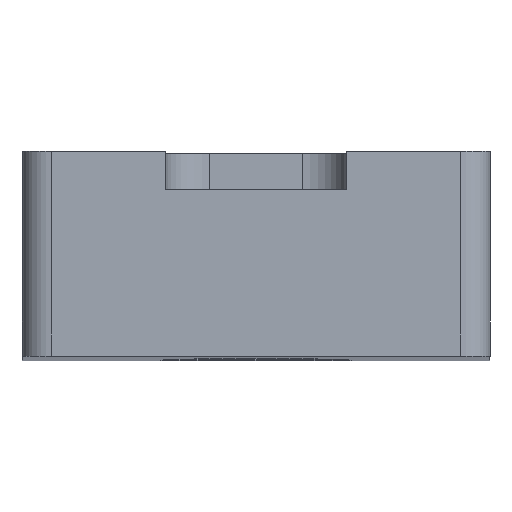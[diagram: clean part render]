
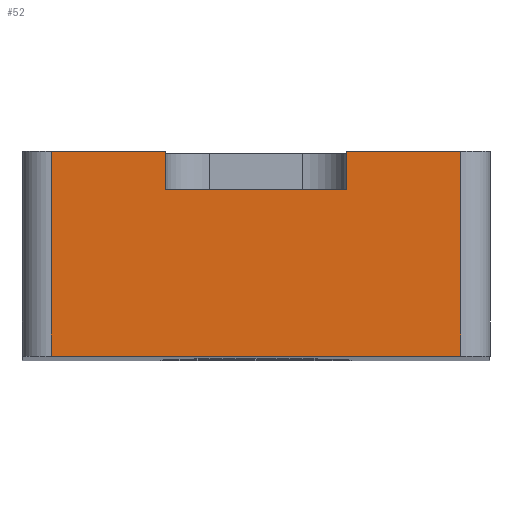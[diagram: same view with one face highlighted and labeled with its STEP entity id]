
A CAD part, top view. The second image highlights one B-rep face of the part: STEP entity #52.
In plain terms, the highlighted planar face has unit normal (0, 0, 1).
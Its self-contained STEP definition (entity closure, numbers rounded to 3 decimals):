
#39 = VECTOR ( 'NONE', #885, 1000. ) ;
#43 = ORIENTED_EDGE ( 'NONE', *, *, #573, .T. ) ;
#45 = EDGE_CURVE ( 'NONE', #270, #396, #795, .T. ) ;
#49 = CARTESIAN_POINT ( 'NONE',  ( 7., 7., 45. ) ) ;
#52 = ADVANCED_FACE ( 'NONE', ( #388 ), #683, .F. ) ;
#61 = VERTEX_POINT ( 'NONE', #770 ) ;
#92 = CARTESIAN_POINT ( 'NONE',  ( -8., 7., 45. ) ) ;
#142 = LINE ( 'NONE', #736, #773 ) ;
#145 = ORIENTED_EDGE ( 'NONE', *, *, #45, .F. ) ;
#160 = CARTESIAN_POINT ( 'NONE',  ( 3.1, 7., 45. ) ) ;
#178 = VERTEX_POINT ( 'NONE', #376 ) ;
#194 = EDGE_CURVE ( 'NONE', #816, #396, #537, .T. ) ;
#201 = EDGE_LOOP ( 'NONE', ( #145, #371, #727, #565, #858, #43, #230, #716 ) ) ;
#230 = ORIENTED_EDGE ( 'NONE', *, *, #715, .T. ) ;
#260 = VECTOR ( 'NONE', #584, 1000. ) ;
#270 = VERTEX_POINT ( 'NONE', #845 ) ;
#281 = VECTOR ( 'NONE', #677, 1000. ) ;
#326 = LINE ( 'NONE', #160, #910 ) ;
#336 = DIRECTION ( 'NONE',  ( -1., 0., 0. ) ) ;
#371 = ORIENTED_EDGE ( 'NONE', *, *, #633, .T. ) ;
#376 = CARTESIAN_POINT ( 'NONE',  ( -7., 7., 45. ) ) ;
#380 = EDGE_CURVE ( 'NONE', #540, #61, #700, .T. ) ;
#384 = CARTESIAN_POINT ( 'NONE',  ( -8., 0., 45. ) ) ;
#385 = VECTOR ( 'NONE', #336, 1000. ) ;
#388 = FACE_OUTER_BOUND ( 'NONE', #201, .T. ) ;
#396 = VERTEX_POINT ( 'NONE', #408 ) ;
#400 = VERTEX_POINT ( 'NONE', #685 ) ;
#408 = CARTESIAN_POINT ( 'NONE',  ( 7., 7., 45. ) ) ;
#420 = DIRECTION ( 'NONE',  ( 0., -1., 0. ) ) ;
#474 = CARTESIAN_POINT ( 'NONE',  ( 7., 0., 45. ) ) ;
#536 = DIRECTION ( 'NONE',  ( 1., 0., 0. ) ) ;
#537 = LINE ( 'NONE', #49, #281 ) ;
#540 = VERTEX_POINT ( 'NONE', #967 ) ;
#562 = EDGE_CURVE ( 'NONE', #400, #540, #635, .T. ) ;
#565 = ORIENTED_EDGE ( 'NONE', *, *, #380, .T. ) ;
#573 = EDGE_CURVE ( 'NONE', #178, #768, #142, .T. ) ;
#584 = DIRECTION ( 'NONE',  ( 1., 0., 0. ) ) ;
#614 = VECTOR ( 'NONE', #536, 1000. ) ;
#633 = EDGE_CURVE ( 'NONE', #270, #400, #326, .T. ) ;
#635 = LINE ( 'NONE', #738, #385 ) ;
#651 = CARTESIAN_POINT ( 'NONE',  ( -7., 0., 45. ) ) ;
#663 = DIRECTION ( 'NONE',  ( 1., 0., 0. ) ) ;
#677 = DIRECTION ( 'NONE',  ( 0., 1., 0. ) ) ;
#683 = PLANE ( 'NONE',  #688 ) ;
#685 = CARTESIAN_POINT ( 'NONE',  ( 3.1, 5.7, 45. ) ) ;
#688 = AXIS2_PLACEMENT_3D ( 'NONE', #734, #820, #972 ) ;
#700 = LINE ( 'NONE', #749, #39 ) ;
#705 = EDGE_CURVE ( 'NONE', #178, #61, #730, .T. ) ;
#708 = LINE ( 'NONE', #384, #260 ) ;
#715 = EDGE_CURVE ( 'NONE', #768, #816, #708, .T. ) ;
#716 = ORIENTED_EDGE ( 'NONE', *, *, #194, .T. ) ;
#727 = ORIENTED_EDGE ( 'NONE', *, *, #562, .T. ) ;
#730 = LINE ( 'NONE', #92, #891 ) ;
#734 = CARTESIAN_POINT ( 'NONE',  ( -8., 7., 45. ) ) ;
#736 = CARTESIAN_POINT ( 'NONE',  ( -7., 7., 45. ) ) ;
#738 = CARTESIAN_POINT ( 'NONE',  ( -8., 5.7, 45. ) ) ;
#749 = CARTESIAN_POINT ( 'NONE',  ( -3.1, 7., 45. ) ) ;
#768 = VERTEX_POINT ( 'NONE', #651 ) ;
#770 = CARTESIAN_POINT ( 'NONE',  ( -3.1, 7., 45. ) ) ;
#773 = VECTOR ( 'NONE', #789, 1000. ) ;
#781 = CARTESIAN_POINT ( 'NONE',  ( -8., 7., 45. ) ) ;
#789 = DIRECTION ( 'NONE',  ( 0., -1., 0. ) ) ;
#795 = LINE ( 'NONE', #781, #614 ) ;
#816 = VERTEX_POINT ( 'NONE', #474 ) ;
#820 = DIRECTION ( 'NONE',  ( 0., 0., -1. ) ) ;
#845 = CARTESIAN_POINT ( 'NONE',  ( 3.1, 7., 45. ) ) ;
#858 = ORIENTED_EDGE ( 'NONE', *, *, #705, .F. ) ;
#885 = DIRECTION ( 'NONE',  ( 0., 1., 0. ) ) ;
#891 = VECTOR ( 'NONE', #663, 1000. ) ;
#910 = VECTOR ( 'NONE', #420, 1000. ) ;
#967 = CARTESIAN_POINT ( 'NONE',  ( -3.1, 5.7, 45. ) ) ;
#972 = DIRECTION ( 'NONE',  ( -1., 0., 0. ) ) ;
